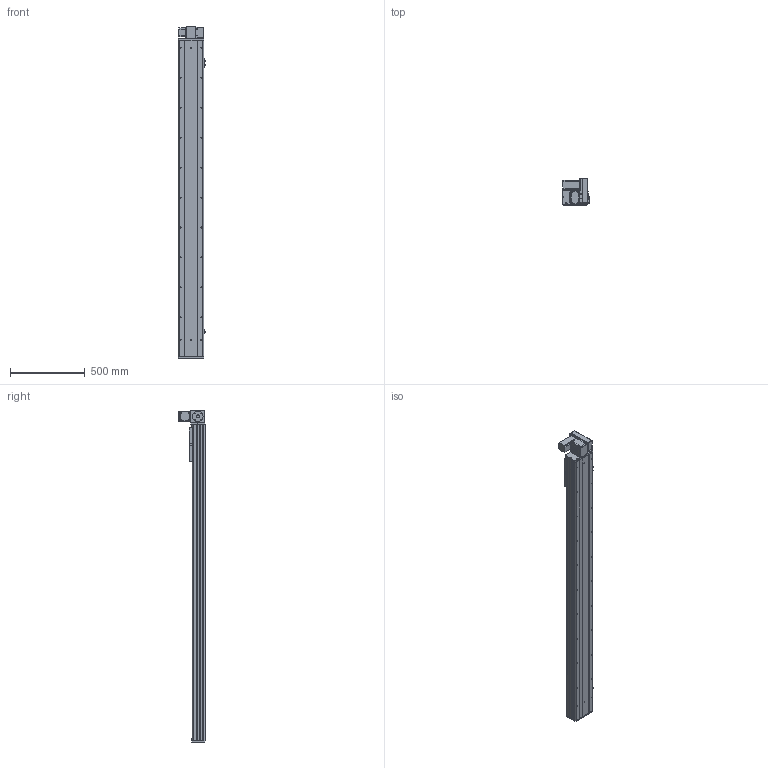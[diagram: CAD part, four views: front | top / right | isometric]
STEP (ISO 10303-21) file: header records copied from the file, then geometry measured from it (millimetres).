
FILE_DESCRIPTION (( 'STEP AP203' ), '1' );
FILE_NAME ('Y170CB-D105-S1800-UR-P400W.STEP', '2020-02-20T04:31:07', ( '微软用户' ), ( '微软中国' ), 'SwSTEP 2.0', 'SolidWorks 2017', '' );
FILE_SCHEMA (( 'CONFIG_CONTROL_DESIGN' ));
Length unit declared in the file: millimetre
Products named in the file (18): Y100-135俋离換覜ん--; 70CB-掛极-; Y170CB-陔俋离換覜結え---; --70CB --喘謫眊楊擘啣-; Y1埴倛裔; 70CB-耜裔啣-; 17B-耜蚾蟀諉啣----; 70C--詩湍揤踡え-; 00B-俋欶BM--163; 70CB--耜裔; 70B喘謫眊----; 70C-雄赽釱-奻-; B-源倛裔啣; Y170CB-D105-S1800-UR-P400W; 0C--雄赽釱俋欶-170; 0B-萇儂楊擘啣; 70CB-詩湍--; san松下电机400不带刹车----
Assembly tree (21 placements, depth 2):
  Y170CB-D105-S1800-UR-P400W
    B-源倛裔啣
    0B-萇儂楊擘啣
    san松下电机400不带刹车----
    70CB-掛极-
    --70CB --喘謫眊楊擘啣-
    70CB-耜裔啣-  x2
    70C--詩湍揤踡え-  x2
    70CB--耜裔
    70C-雄赽釱-奻-
    0C--雄赽釱俋欶-170
    70CB-詩湍--
    Y100-135俋离換覜ん--  x3
    Y170CB-陔俋离換覜結え---
    Y1埴倛裔
    17B-耜蚾蟀諉啣----
    00B-俋欶BM--163
    70B喘謫眊----
Bounding box: 183.5 x 174 x 2216 mm (x, y, z)
Volume: 9689438.2 mm3; surface area: 3490668.5 mm2
Topology: 21 solids, 21 shells, 1039 faces, 2789 edges, 1850 vertices
Faces by surface type: cylinder 553, plane 462, cone 24
Entity records: 33204 total; most frequent: CARTESIAN_POINT 6096, DIRECTION 5402, ORIENTED_EDGE 5060, EDGE_CURVE 2530, AXIS2_PLACEMENT_3D 1988, VERTEX_POINT 1680, VECTOR 1426, LINE 1426
